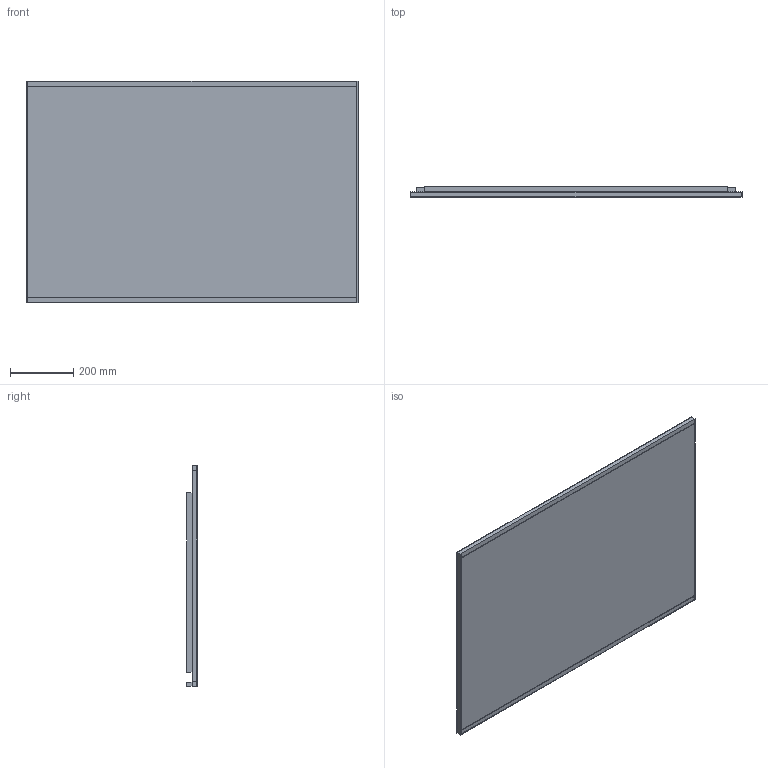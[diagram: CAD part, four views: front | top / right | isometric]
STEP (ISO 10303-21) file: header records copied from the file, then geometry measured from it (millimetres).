
FILE_DESCRIPTION(/* description */ (''),/* implementation_level */ '2;1');
FILE_NAME(/* name */ 'C:\Planerdaten\Export PLA\502.784.00.1\stp\502784.stp',/* time_stamp */ '2022-12-02T15:05:08+01:00',/* author */ ('JANAN'),/* organization */ (''),/* preprocessor_version */ 'ST-DEVELOPER v18.1',/* originating_system */ 'Autodesk Inventor 2021',/* authorisation */ '');
FILE_SCHEMA (('AUTOMOTIVE_DESIGN { 1 0 10303 214 3 1 1 }'));
Length unit declared in the file: millimetre
Products named in the file (1): tmp1FA.tmp
Bounding box: 1050 x 32 x 700 mm (x, y, z)
Volume: 19783517 mm3; surface area: 3224481 mm2
Topology: 4 solids, 4 shells, 63 faces, 154 edges, 104 vertices
Faces by surface type: plane 59, cylinder 4
Full cylindrical faces by diameter (mm): 8 x4
Entity records: 1959 total; most frequent: CARTESIAN_POINT 322, ORIENTED_EDGE 308, DIRECTION 298, EDGE_CURVE 154, LINE 138, VECTOR 138, VERTEX_POINT 104, AXIS2_PLACEMENT_3D 80
